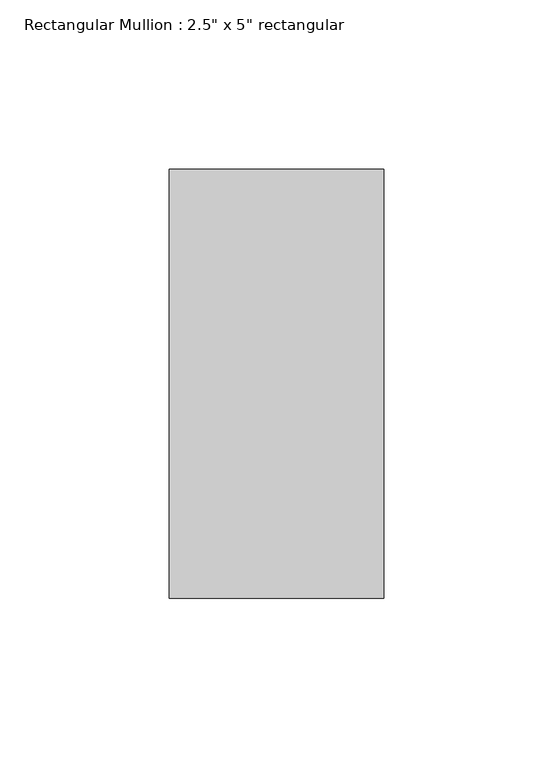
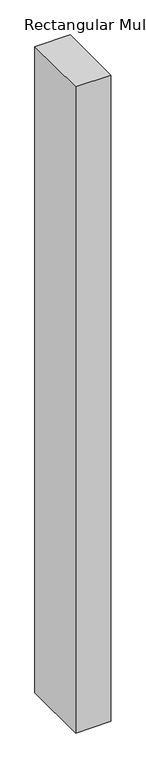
"""IFC4 building model written with IfcOpenShell, lengths in millimetres: member geometry."""

from ifc_helpers import new_model, si_unit, frame, origin, place, context, project, spatial, polyline, outline, extrude, source, transform, mapped, element, save


def member_7bd85d1a(model_context):
    return source(origin(), model_context, "Body", "SweptSolid", [
        extrude(outline(polyline([(31.75, 63.5), (31.75, -63.5), (-31.75, -63.5), (-31.75, 63.5), (31.75, 63.5)])), frame((0.0, 0.0, -1231.9), z_axis=(0.0, 0.0, 1.0), x_axis=(1.0, 0.0, 0.0)), (0.0, 0.0, 1.0), 1231.9),
    ])


if __name__ == "__main__":
    model = new_model("IFC4")
    model_context = context("Model", 3, world=origin())
    ifc_project = project(units=[si_unit("LENGTHUNIT", "METRE", prefix="MILLI")], contexts=[model_context])
    site = spatial("IfcSite", under=ifc_project)
    building = spatial("IfcBuilding", under=site)
    placement = place(None, origin())
    member_shape = member_7bd85d1a(model_context)
    element("IfcMember", 1, ObjectType="Rectangular Mullion : 2.5\" x 5\" rectangular", at=placement, inside=building, context=model_context, shape_type="MappedRepresentation", body=[
        mapped(member_shape, transform((0.0, 0.0, 0.0), x_axis=(1.0, 0.0, 0.0), y_axis=(0.0, 1.0, 0.0), z_axis=(0.0, 0.0, 1.0))),
    ])
    save(model, "model.ifc")
